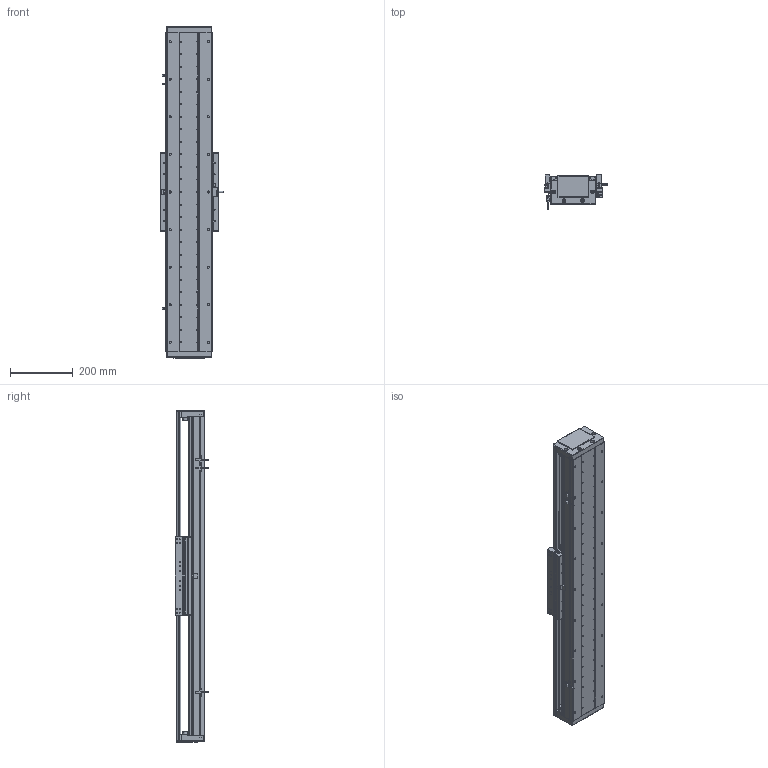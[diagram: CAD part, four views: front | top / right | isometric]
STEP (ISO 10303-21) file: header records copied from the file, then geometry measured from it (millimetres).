
FILE_DESCRIPTION (( 'STEP AP203' ), '1' );
FILE_NAME ('DA-C145-C3-T720-C010-0.2 眻盄萇儂.STEP', '2025-08-14T01:18:48', ( '' ), ( '' ), 'SwSTEP 2.0', 'SolidWorks 2019', '' );
FILE_SCHEMA (( 'CONFIG_CONTROL_DESIGN' ));
Length unit declared in the file: millimetre
Products named in the file (29): IU-CU145-L-00 菁釱(L1020); 复件 半圆头内六角螺钉 M3×6^CU145-W 滚珠滑台; 复件 DA145-C3-YB-A-00 压板A^CU145-W 滚珠滑台; 复件 DA95-DB-00  挡板^CU145-W 滚珠滑台; CU145-W 幗紩賑怢; 复件 内六角平端紧定螺钉 GB.T77-2000 M5×10^CU145-W 滚珠滑台; DA-C145-C3-T720-C010-0.2 眻盄萇儂; 葩璃 鞠褒情蹟譫 M3^DA-C145-C3-T-C010-0.2; 葩璃 DA145-DG-H-N-00 傷裔^DA-C145-C3-T-C010-0.2; 葩璃 CKMA01-W060-TRL^DA-C145-C3-T-C010-0.2; 复件 DA95-HK-GT-00 滑块钢轨^CU145-W-00 一体化滑动台板; 葩璃 DA95-GT-T-00^IU-CU145-L 菁釱絳寢; 66245-CU145-HT-W-00 賑雄怢啣(3D芞祧)(00); IU-CU145-L 菁釱絳寢; 葩璃 DA145-C3-DP-B-00 菜えB^CU145-W 幗紩賑怢; TAY01-M8; 葩璃 XD-U-02L 棠掑喜^DA-C145-C3-T-C010-0.2; 复件 DA145-C3-DK-00 挡块^CU145-W 滚珠滑台; 葩璃 CKM03-W060-C1C2-TP-0.2^DA-C145-C3-T-C010-0.2; CU145-W-00 珨极趙賑雄怢啣; 葩璃 PM-T45^DA-C145-C3-T-C010-0.2; 复件 DA145-GYP-00 光电感应片^DA-C145-C3-T-C010-0.2; 复件 纯铜油杯 6x6mm^CU145-W 滚珠滑台; 葩璃 DA95-HXJ-00 遣喳砎蝶^DA-C145-C3-T-C010-0.2; 复件 DA145-C3-YB-B-00 压板B^CU145-W 滚珠滑台; 葩璃 DMA-010-0.2 黍杅芛^DA-C145-C3-T-C010-0.2; 复件 DA95-MFP-01 密封片^CU145-W 滚珠滑台; 葩璃 DA145-T-003-00 裔啣^DA-C145-C3-T-C010-0.2; 葩璃 DA145-C3-DP-A-00 菜えA^CU145-W 幗紩賑怢
Assembly tree (98 placements, depth 4):
  DA-C145-C3-T720-C010-0.2 眻盄萇儂
    IU-CU145-L 菁釱絳寢
      IU-CU145-L-00 菁釱(L1020)
      葩璃 DA95-GT-T-00^IU-CU145-L 菁釱絳寢  x4
    CU145-W 幗紩賑怢
      CU145-W-00 珨极趙賑雄怢啣
        66245-CU145-HT-W-00 賑雄怢啣(3D芞祧)(00)
        复件 DA95-HK-GT-00 滑块钢轨^CU145-W-00 一体化滑动台板  x8
      复件 DA95-MFP-01 密封片^CU145-W 滚珠滑台  x8
      复件 DA95-DB-00  挡板^CU145-W 滚珠滑台  x8
      复件 内六角平端紧定螺钉 GB.T77-2000 M5×10^CU145-W 滚珠滑台  x4
      复件 纯铜油杯 6x6mm^CU145-W 滚珠滑台  x4
      复件 半圆头内六角螺钉 M3×6^CU145-W 滚珠滑台  x16
      复件 DA145-C3-DK-00 挡块^CU145-W 滚珠滑台  x4
      葩璃 DA145-C3-DP-B-00 菜えB^CU145-W 幗紩賑怢  x2
      复件 DA145-C3-YB-B-00 压板B^CU145-W 滚珠滑台  x2
      葩璃 DA145-C3-DP-A-00 菜えA^CU145-W 幗紩賑怢  x3
      复件 DA145-C3-YB-A-00 压板A^CU145-W 滚珠滑台  x3
      TAY01-M8  x4
    葩璃 CKMA01-W060-TRL^DA-C145-C3-T-C010-0.2
    葩璃 PM-T45^DA-C145-C3-T-C010-0.2  x3
    葩璃 XD-U-02L 棠掑喜^DA-C145-C3-T-C010-0.2
    葩璃 DA145-DG-H-N-00 傷裔^DA-C145-C3-T-C010-0.2  x2
    葩璃 DA145-T-003-00 裔啣^DA-C145-C3-T-C010-0.2
    葩璃 DA95-HXJ-00 遣喳砎蝶^DA-C145-C3-T-C010-0.2  x4
    复件 DA145-GYP-00 光电感应片^DA-C145-C3-T-C010-0.2
    葩璃 DMA-010-0.2 黍杅芛^DA-C145-C3-T-C010-0.2
    葩璃 CKM03-W060-C1C2-TP-0.2^DA-C145-C3-T-C010-0.2
    葩璃 鞠褒情蹟譫 M3^DA-C145-C3-T-C010-0.2  x8
Bounding box: 203.5 x 108.45 x 1060 mm (x, y, z)
Volume: 6996235.4 mm3; surface area: 2040782.7 mm2
Topology: 95 solids, 127 shells, 3957 faces, 10533 edges, 6500 vertices
Faces by surface type: cylinder 1666, plane 1575, cone 626, torus 86, sphere 4
Entity records: 91019 total; most frequent: CARTESIAN_POINT 22890, DIRECTION 13315, ORIENTED_EDGE 13064, EDGE_CURVE 6532, AXIS2_PLACEMENT_3D 4950, VERTEX_POINT 4189, VECTOR 3415, LINE 3415
